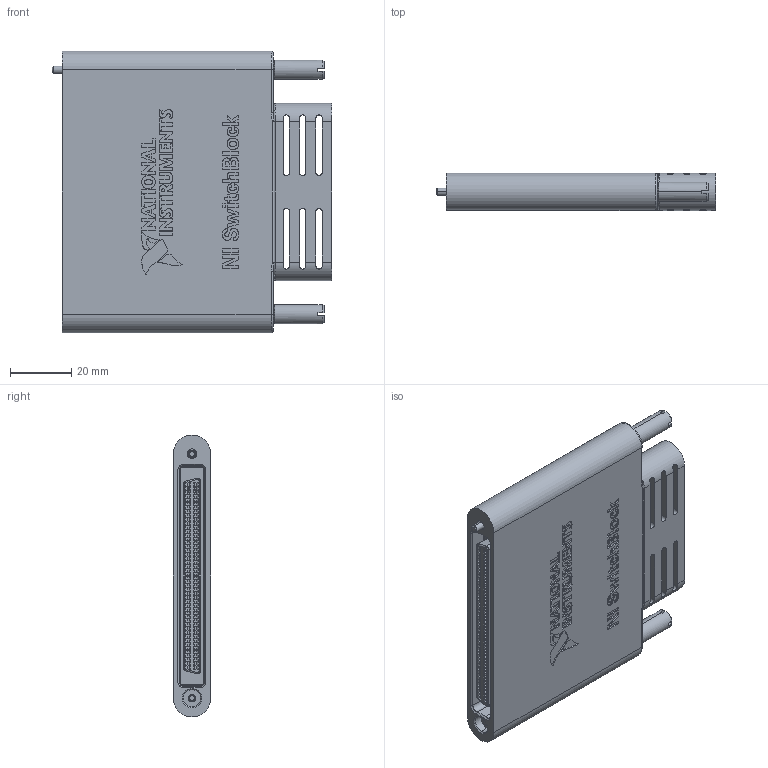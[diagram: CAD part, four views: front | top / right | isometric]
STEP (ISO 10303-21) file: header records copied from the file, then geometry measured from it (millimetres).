
FILE_DESCRIPTION((''),'2;1');
FILE_NAME('CU_SH96F-96M_FEMALE','2010-05-21T',('jjorden'),(''),'PRO/ENGINEER BY PARAMETRIC TECHNOLOGY CORPORATION, 2006080','PRO/ENGINEER BY PARAMETRIC TECHNOLOGY CORPORATION, 2006080','');
FILE_SCHEMA(('CONFIG_CONTROL_DESIGN'));
Length unit declared in the file: inch
Products named in the file (1): CU_SH96F-96M_FEMALE
Bounding box: 91.26 x 12.19 x 91.95 mm (x, y, z)
Volume: 76540 mm3; surface area: 32106.6 mm2
Topology: 1 solids, 1 shells, 3318 faces, 8815 edges, 5730 vertices
Faces by surface type: plane 2638, cylinder 448, extrusion 196, cone 22, torus 10, bspline 4
Entity records: 105136 total; most frequent: CARTESIAN_POINT 21880, ORIENTED_EDGE 17630, DIRECTION 15783, EDGE_CURVE 8815, VECTOR 7555, LINE 7359, VERTEX_POINT 5730, AXIS2_PLACEMENT_3D 4114
